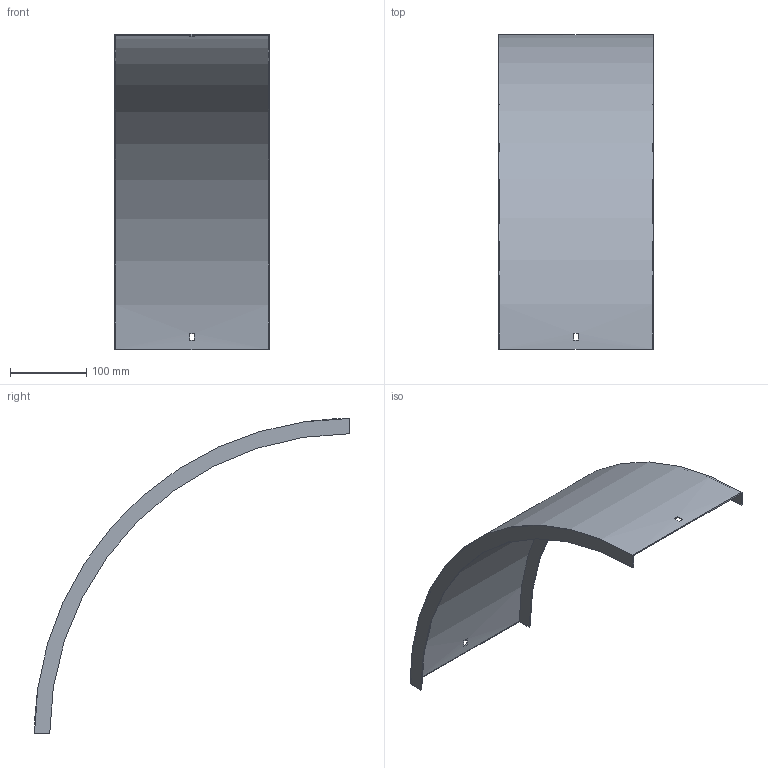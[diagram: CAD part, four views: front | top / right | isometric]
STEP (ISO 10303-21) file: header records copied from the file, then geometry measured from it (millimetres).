
FILE_DESCRIPTION (( 'STEP AP214' ), '1' );
FILE_NAME ('B2_33N3J200.step', '2025-02-21T10:47:30', ( '' ), ( '' ), 'SwSTEP 2.0', 'SolidWorks 2023', '' );
FILE_SCHEMA (( 'AUTOMOTIVE_DESIGN' ));
Length unit declared in the file: millimetre
Products named in the file (1): B2_33N3J200
Bounding box: 203 x 414 x 414 mm (x, y, z)
Volume: 232639.9 mm3; surface area: 312859.9 mm2
Topology: 1 solids, 1 shells, 18 faces, 48 edges, 32 vertices
Faces by surface type: plane 14, cylinder 4
Entity records: 599 total; most frequent: DIRECTION 102, CARTESIAN_POINT 99, ORIENTED_EDGE 96, EDGE_CURVE 48, AXIS2_PLACEMENT_3D 35, VECTOR 32, LINE 32, VERTEX_POINT 32
